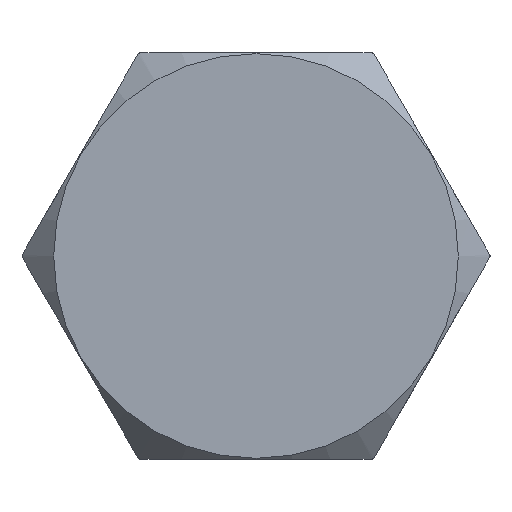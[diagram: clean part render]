
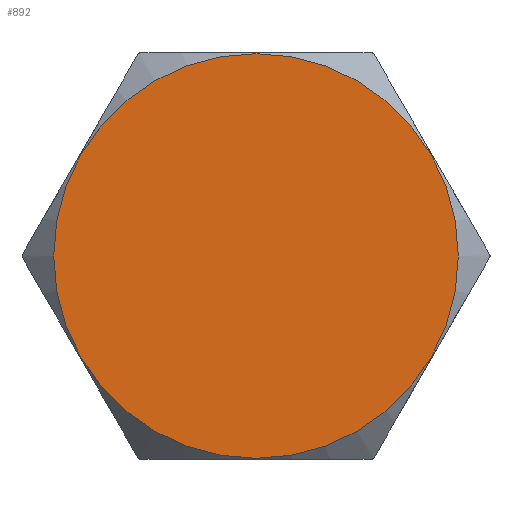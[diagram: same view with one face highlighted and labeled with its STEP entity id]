
A CAD part, front view. The second image highlights one B-rep face of the part: STEP entity #892.
In plain terms, the highlighted planar face has unit normal (0, -1, 0).
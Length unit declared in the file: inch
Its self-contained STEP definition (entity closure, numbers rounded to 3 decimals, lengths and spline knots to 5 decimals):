
#57=PLANE('',#1026);
#123=FACE_OUTER_BOUND('',#178,.T.);
#178=EDGE_LOOP('',(#764));
#326=CIRCLE('',#1023,0.498);
#416=VERTEX_POINT('',#1674);
#536=EDGE_CURVE('',#416,#416,#326,.T.);
#764=ORIENTED_EDGE('',*,*,#536,.F.);
#892=ADVANCED_FACE('',(#123),#57,.T.);
#1023=AXIS2_PLACEMENT_3D('',#1675,#1256,#1257);
#1026=AXIS2_PLACEMENT_3D('',#1679,#1263,#1264);
#1256=DIRECTION('center_axis',(0.,1.,0.));
#1257=DIRECTION('ref_axis',(0.,0.,1.));
#1263=DIRECTION('center_axis',(0.,-1.,0.));
#1264=DIRECTION('ref_axis',(0.,0.,-1.));
#1674=CARTESIAN_POINT('',(0.,0.,-0.498));
#1675=CARTESIAN_POINT('Origin',(0.,0.,0.));
#1679=CARTESIAN_POINT('Origin',(0.,0.,0.));
